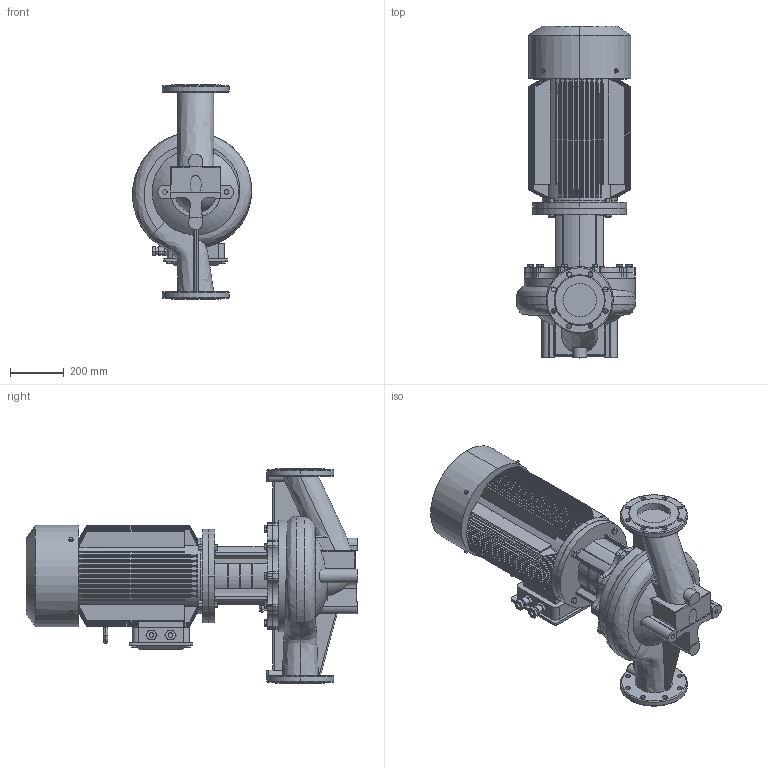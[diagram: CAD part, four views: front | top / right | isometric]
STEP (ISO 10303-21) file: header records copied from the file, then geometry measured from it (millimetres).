
FILE_DESCRIPTION (( 'STEP AP203' ), '1' );
FILE_NAME ('TD125-32G／4.STEP', '2026-09-07T02:55:15', ( '' ), ( '' ), 'SwSTEP 2.0', 'SolidWorks 2020', '' );
FILE_SCHEMA (( 'CONFIG_CONTROL_DESIGN' ));
Length unit declared in the file: millimetre
Products named in the file (1): TD125-32Gㄞ4
Bounding box: 444.3 x 1239 x 800 mm (x, y, z)
Volume: 111602163 mm3; surface area: 5610758.5 mm2
Topology: 1 solids, 9 shells, 1605 faces, 4162 edges, 2636 vertices
Faces by surface type: plane 683, cylinder 442, cone 391, torus 46, bspline 41, sphere 2
Entity records: 71595 total; most frequent: CARTESIAN_POINT 33273, ORIENTED_EDGE 8316, DIRECTION 7672, EDGE_CURVE 4158, AXIS2_PLACEMENT_3D 3030, VERTEX_POINT 2636, EDGE_LOOP 1734, VECTOR 1612
